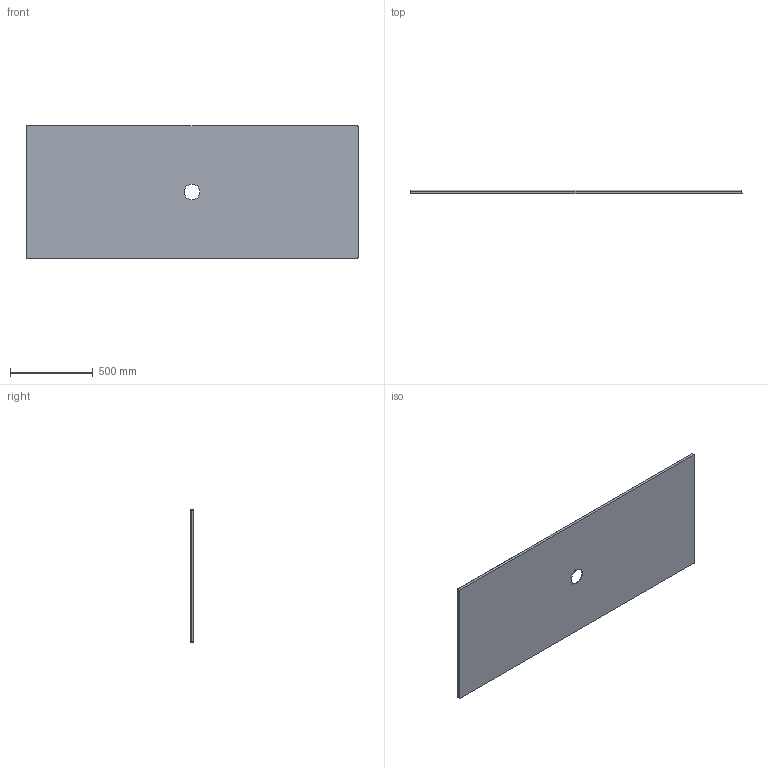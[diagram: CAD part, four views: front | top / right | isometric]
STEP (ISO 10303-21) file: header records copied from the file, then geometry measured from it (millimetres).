
FILE_DESCRIPTION (( 'STEP AP203' ), '1' );
FILE_NAME ('SDPD20008020.STEP', '2023-03-31T10:34:44', ( '' ), ( '' ), 'SwSTEP 2.0', 'SolidWorks 2023', '' );
FILE_SCHEMA (( 'CONFIG_CONTROL_DESIGN' ));
Length unit declared in the file: millimetre
Products named in the file (1): SDPD20008020
Bounding box: 2000 x 20 x 800 mm (x, y, z)
Volume: 27482683.2 mm3; surface area: 3278424.1 mm2
Topology: 1 solids, 1 shells, 26 faces, 62 edges, 40 vertices
Faces by surface type: cylinder 9, plane 8, sphere 4, bspline 2, torus 2, cone 1
Full cylindrical faces by diameter (mm): 95 x1
Entity records: 2586 total; most frequent: CARTESIAN_POINT 1970, DIRECTION 108, ORIENTED_EDGE 104, EDGE_CURVE 52, AXIS2_PLACEMENT_3D 44, VERTEX_POINT 36, EDGE_LOOP 36, FACE_OUTER_BOUND 31
